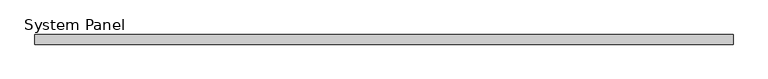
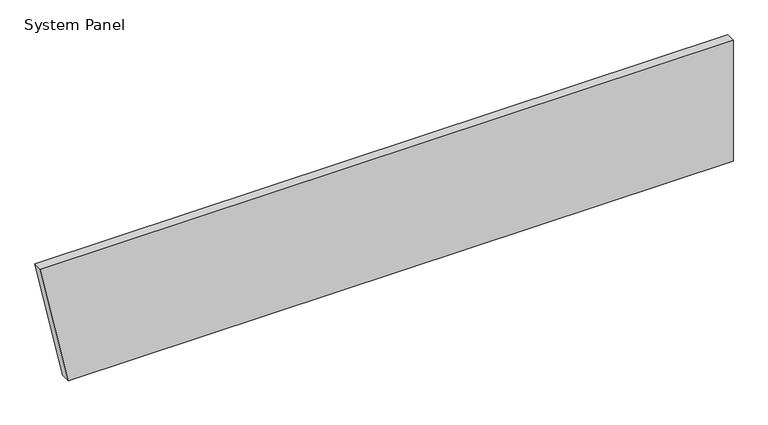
"""IFC4 building model written with IfcOpenShell, lengths in millimetres: plate geometry, System Panel : InsulWall_90mm_Plain_Surfmist."""

from ifc_helpers import new_model, si_unit, frame, origin, place, context, project, spatial, polyline, outline, extrude, source, transform, mapped, element, save


def system_panel_97c61925(model_context):
    return source(origin(), model_context, "Body", "SweptSolid", [
        extrude(outline(polyline([(0.0, -2995.0), (0.0, 3255.8716619), (1200.0, 3255.8716619), (1200.0, -3255.8716619), (0.0, -2995.0)])), frame((0.0, -90.0, 0.0), z_axis=(0.0, 1.0, 0.0), x_axis=(0.0, 0.0, 1.0)), (0.0, 0.0, 1.0), 90.0),
    ])


if __name__ == "__main__":
    model = new_model("IFC4")
    model_context = context("Model", 3, world=origin())
    ifc_project = project(units=[si_unit("LENGTHUNIT", "METRE", prefix="MILLI")], contexts=[model_context])
    site = spatial("IfcSite", under=ifc_project)
    building = spatial("IfcBuilding", under=site)
    placement = place(None, origin())
    system_panel_shape = system_panel_97c61925(model_context)
    element("IfcPlate", 1, ObjectType="System Panel : InsulWall_90mm_Plain_Surfmist", at=placement, inside=building, context=model_context, shape_type="MappedRepresentation", body=[
        mapped(system_panel_shape, transform((0.0, 0.0, 0.0), x_axis=(1.0, 0.0, 0.0), y_axis=(0.0, 1.0, 0.0), z_axis=(0.0, 0.0, 1.0))),
    ])
    save(model, "model.ifc")
